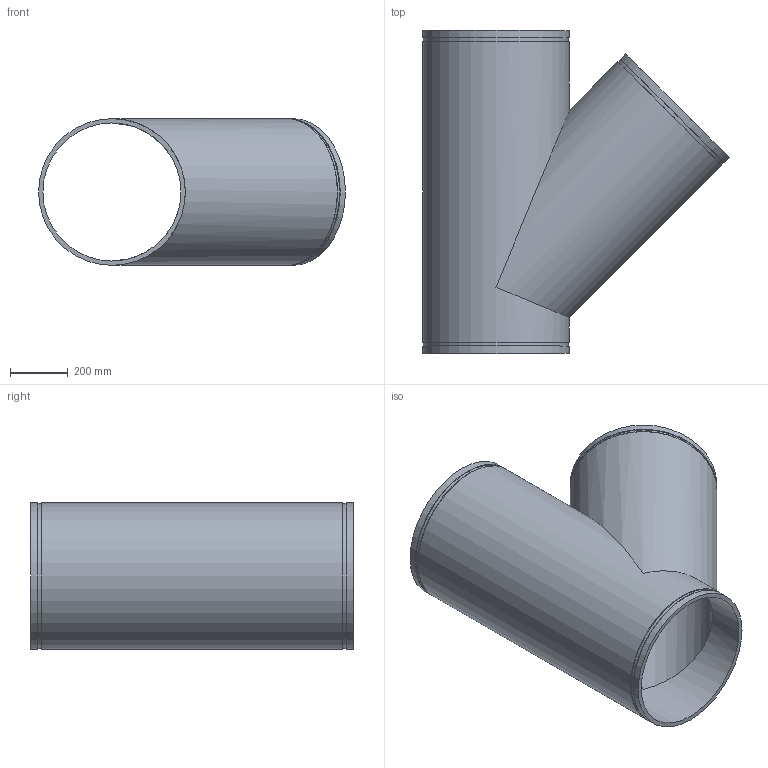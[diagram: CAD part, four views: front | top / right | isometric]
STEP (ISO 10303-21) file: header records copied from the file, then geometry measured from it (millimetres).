
FILE_DESCRIPTION(/* description */ ('VIC 45 DEG FABRICATED LATERAL No 30 SWS (OGS)','CAx-IF Rec.Pracs.---Representation and Presentation of Product Manufacturing Information (PMI)---4.0---2014-10-13'),/* implementation_level */ '2;1');
FILE_NAME(/* name */ 'C:\Users\kkamble\AppData\Roaming\Autodesk\ApplicationPlugins\Back Up\Victaulic_IPS_Lateral 45 Deg_No 30 SWS (OGS)\Victaulic_IPS_Lateral 45 Deg_No 30 SWS (OGS)_20 (500).stp',/* time_stamp */ '2020-09-16T22:21:27+06:00',/* author */ ('cgray'),/* organization */ ('Victaulic'),/* preprocessor_version */ 'ST-DEVELOPER v17.2',/* originating_system */ 'Autodesk Inventor 2019',/* authorisation */ '');
FILE_SCHEMA (('AP242_MANAGED_MODEL_BASED_3D_ENGINEERING_MIM_LF { 1 0 10303 442 1 1 4 }'));
Length unit declared in the file: inch
Products named in the file (1): 30 SWS-20.0
Bounding box: 1062.22 x 1117.6 x 508 mm (x, y, z)
Volume: 36281641.1 mm3; surface area: 4934849 mm2
Topology: 1 solids, 1 shells, 19 faces, 45 edges, 34 vertices
Faces by surface type: cylinder 10, plane 9
Full cylindrical faces by diameter (mm): 477.876 x2, 502.437 x3, 508 x5
Entity records: 748 total; most frequent: DIRECTION 145, CARTESIAN_POINT 116, ORIENTED_EDGE 90, AXIS2_PLACEMENT_3D 67, EDGE_CURVE 45, VERTEX_POINT 34, EDGE_LOOP 29, CIRCLE 27
